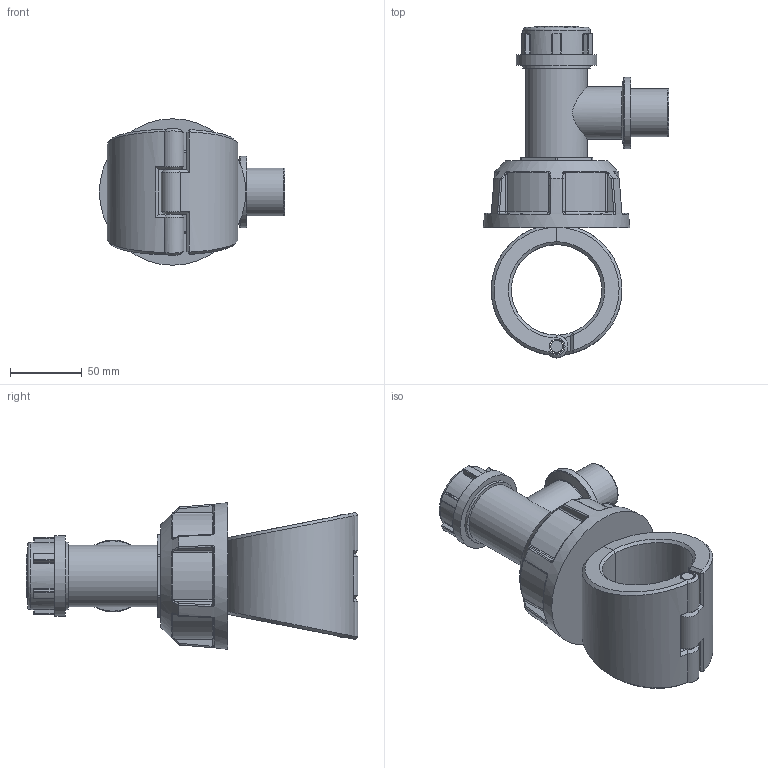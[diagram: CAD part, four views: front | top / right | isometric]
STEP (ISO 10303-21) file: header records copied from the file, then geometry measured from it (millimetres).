
FILE_DESCRIPTION(/* description */ ('Plassadle Tapper Male 63x1'''''),/* implementation_level */ '2;1');
FILE_NAME(/* name */ 'C:\Users\comp2\Dropbox\99-16-3568-Processing\Mechanical Fittings\1631R\stp\1631R0063010.stp',/* time_stamp */ '2022-02-03T12:06:10+00:00',/* author */ ('comp2'),/* organization */ (''),/* preprocessor_version */ 'ST-DEVELOPER v17.2',/* originating_system */ 'Autodesk Inventor 2019',/* authorisation */ '');
FILE_SCHEMA (('AUTOMOTIVE_DESIGN { 1 0 10303 214 3 1 1 }'));
Length unit declared in the file: millimetre
Products named in the file (1): 1631R0063010
Bounding box: 129 x 231 x 102 mm (x, y, z)
Volume: 726573 mm3; surface area: 103045.4 mm2
Topology: 4 solids, 4 shells, 341 faces, 833 edges, 509 vertices
Faces by surface type: cylinder 110, plane 82, bspline 70, torus 40, sphere 24, cone 15
Full cylindrical faces by diameter (mm): 8.22 x1, 10.22 x3, 24.937 x1, 30.6 x1, 33.249 x1, 36.574 x1, 42.84 x1, 46.84 x2, 49.873 x1, 56.1 x1
Entity records: 13148 total; most frequent: CARTESIAN_POINT 5510, ORIENTED_EDGE 1666, DIRECTION 1492, EDGE_CURVE 833, AXIS2_PLACEMENT_3D 627, VERTEX_POINT 509, EDGE_LOOP 356, FACE_OUTER_BOUND 341
